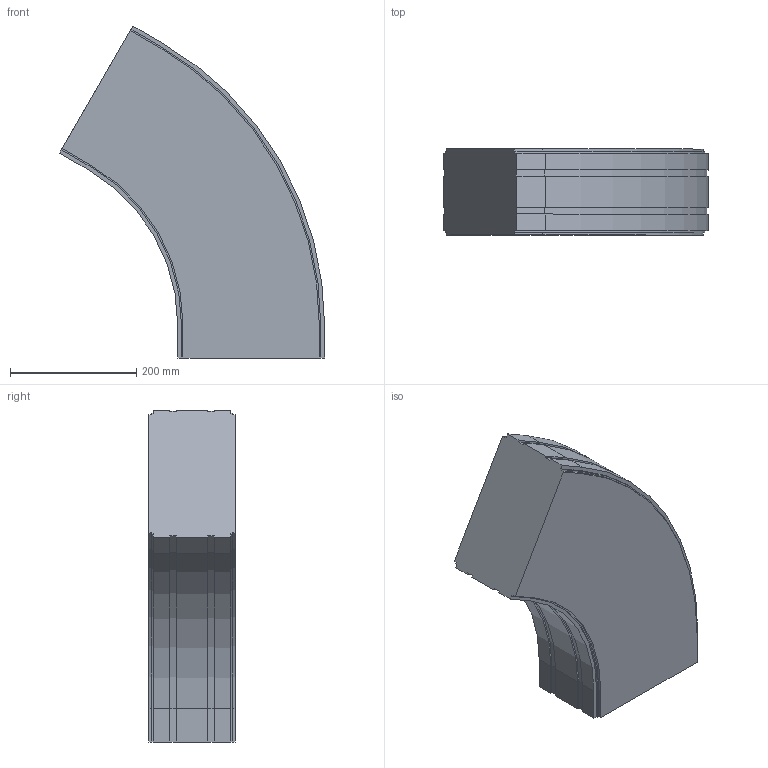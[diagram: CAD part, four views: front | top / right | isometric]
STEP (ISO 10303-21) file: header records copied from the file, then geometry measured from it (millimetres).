
FILE_DESCRIPTION (( 'STEP AP214' ), '1' );
FILE_NAME ('FS-MTC2-150-INOX horizontaalbocht.230 60°.STEP', '2017-02-08T12:40:27', ( '' ), ( '' ), 'SwSTEP 2.0', 'SolidWorks 2016', '' );
FILE_SCHEMA (( 'AUTOMOTIVE_DESIGN' ));
Length unit declared in the file: millimetre
Products named in the file (1): FS-MTC2-150-INOX horizontaalbocht.230 60°
Bounding box: 419.84 x 136.5 x 525.84 mm (x, y, z)
Volume: 16463657.8 mm3; surface area: 459953.2 mm2
Topology: 1 solids, 1 shells, 74 faces, 216 edges, 144 vertices
Faces by surface type: plane 56, cylinder 18
Entity records: 2470 total; most frequent: CARTESIAN_POINT 435, ORIENTED_EDGE 432, DIRECTION 402, EDGE_CURVE 216, VECTOR 180, LINE 180, VERTEX_POINT 144, AXIS2_PLACEMENT_3D 111
